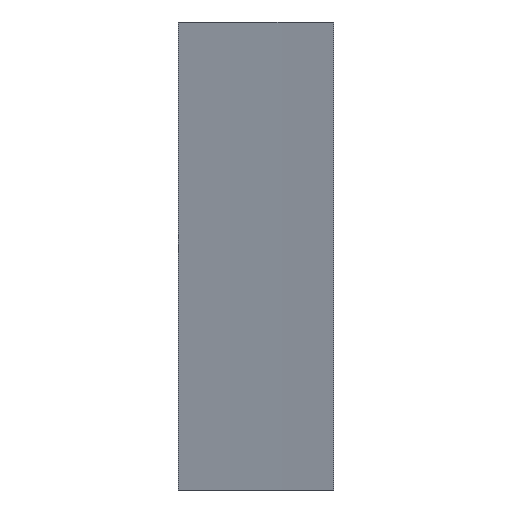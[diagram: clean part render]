
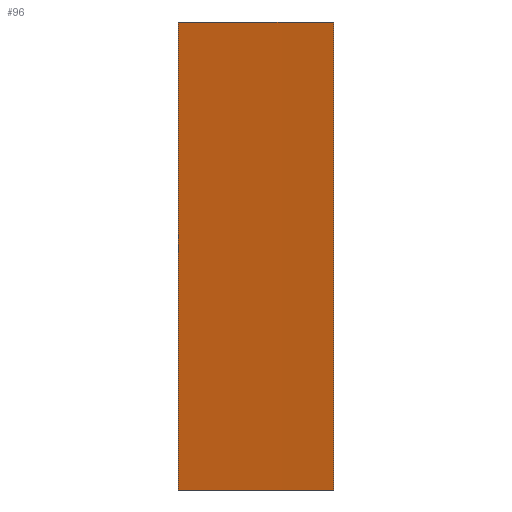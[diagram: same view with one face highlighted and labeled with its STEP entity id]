
A CAD part, left-side view. The second image highlights one B-rep face of the part: STEP entity #96.
In plain terms, the highlighted cylindrical face has radius 18.459 mm (diameter 36.918 mm), a partial arc.
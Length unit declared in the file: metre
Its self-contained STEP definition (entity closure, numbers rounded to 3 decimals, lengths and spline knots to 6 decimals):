
#13=CYLINDRICAL_SURFACE('',#118,0.018459);
#14=CIRCLE('',#114,0.018459);
#17=CIRCLE('',#119,0.018459);
#26=ORIENTED_EDGE('',*,*,#44,.T.);
#27=ORIENTED_EDGE('',*,*,#49,.T.);
#28=ORIENTED_EDGE('',*,*,#50,.F.);
#29=ORIENTED_EDGE('',*,*,#46,.F.);
#44=EDGE_CURVE('',#57,#56,#14,.F.);
#46=EDGE_CURVE('',#57,#58,#64,.T.);
#49=EDGE_CURVE('',#56,#60,#66,.T.);
#50=EDGE_CURVE('',#58,#60,#17,.F.);
#56=VERTEX_POINT('',#159);
#57=VERTEX_POINT('',#161);
#58=VERTEX_POINT('',#165);
#60=VERTEX_POINT('',#171);
#64=LINE('',#164,#72);
#66=LINE('',#170,#74);
#72=VECTOR('',#135,1.);
#74=VECTOR('',#141,1.);
#80=EDGE_LOOP('',(#26,#27,#28,#29));
#86=FACE_BOUND('',#80,.T.);
#96=ADVANCED_FACE('',(#86),#13,.F.);
#114=AXIS2_PLACEMENT_3D('',#160,#129,#130);
#118=AXIS2_PLACEMENT_3D('',#169,#139,#140);
#119=AXIS2_PLACEMENT_3D('',#172,#142,#143);
#129=DIRECTION('',(0.,0.,1.));
#130=DIRECTION('',(1.,0.,0.));
#135=DIRECTION('',(0.,0.,1.));
#139=DIRECTION('',(0.,0.,1.));
#140=DIRECTION('',(0.959,-0.283,0.));
#141=DIRECTION('',(0.,0.,1.));
#142=DIRECTION('',(0.,0.,1.));
#143=DIRECTION('',(1.,0.,0.));
#159=CARTESIAN_POINT('',(0.015279,0.062876,0.));
#160=CARTESIAN_POINT('',(-0.002326,0.068428,0.));
#161=CARTESIAN_POINT('',(0.015428,0.063374,0.));
#164=CARTESIAN_POINT('',(0.015428,0.063375,-0.0235));
#165=CARTESIAN_POINT('',(0.015428,0.063374,0.0015));
#169=CARTESIAN_POINT('',(-0.002326,0.068428,-0.0235));
#170=CARTESIAN_POINT('',(0.015278,0.062876,0.));
#171=CARTESIAN_POINT('',(0.015279,0.062876,0.0015));
#172=CARTESIAN_POINT('',(-0.002326,0.068428,0.0015));
